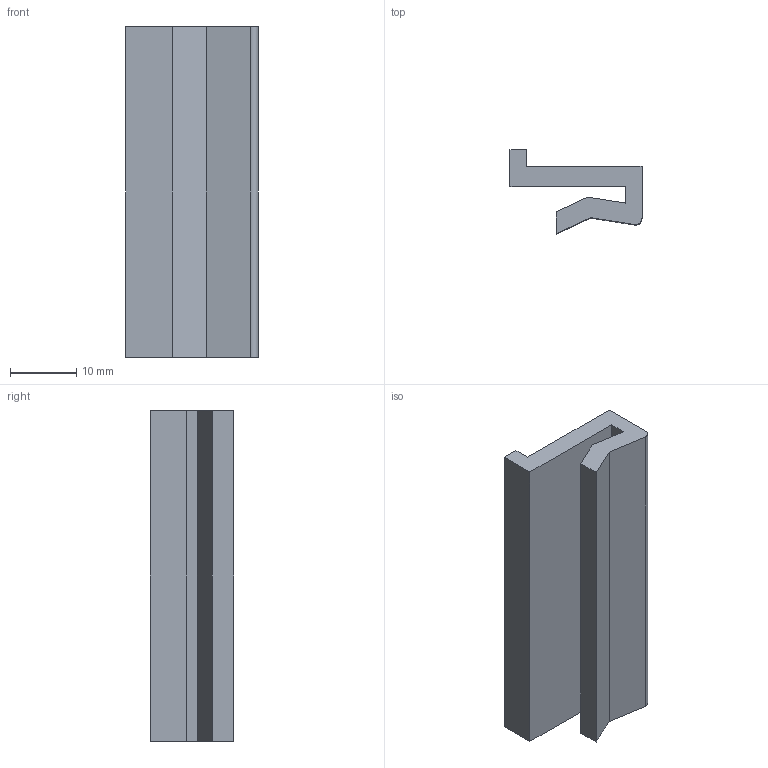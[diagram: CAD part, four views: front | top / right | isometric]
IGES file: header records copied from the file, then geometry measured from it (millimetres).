
Start section: SolidWorks IGES file using analytic representation for surfaces
Global section: file name: C:\Documents and Settings\URETIM3\Desktop\yeni katalog tolgay düzenli\E kataloðu\GEÇMELÝ Z PROFÝL ALPOLEN 1000\206 OGZ 003.SÝYAH.IGS; native system: SolidWorks 2006 by SolidWorks Corporation; preprocessor: SolidWorks 2006 by SolidWorks Corporation; author: URETIM3; date: 060912.174526; units: millimetre
Bounding box: 20 x 12.7 x 50 mm (x, y, z)
Surface area: 4451.2 mm2 (no closed solid volume)
Topology: 0 solids, 0 shells, 15 faces, 92 edges, 92 vertices
Faces by surface type: bspline 14, revolution 1
